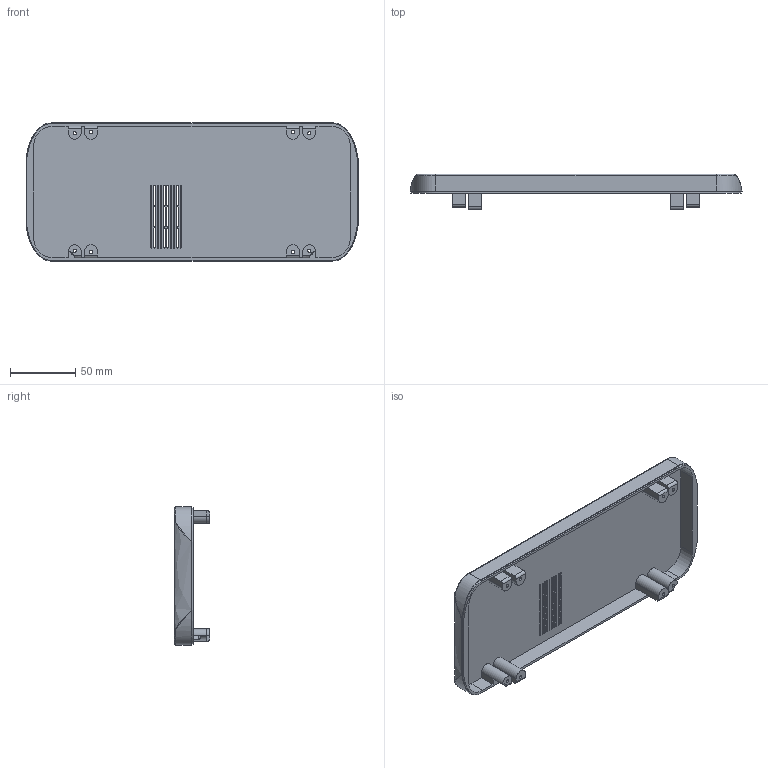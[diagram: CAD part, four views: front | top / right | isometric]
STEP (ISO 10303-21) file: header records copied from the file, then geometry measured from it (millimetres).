
FILE_DESCRIPTION(/* description */ ('STEP AP242','CAx-IF Rec.Pracs.---Representation and Presentation of Product Manufacturing Information (PMI)---4.0---2014-10-13','CAx-IF Rec.Pracs.---3D Tessellated Geometry---0.4---2014-09-14','2;1'),/* implementation_level */ '2;1');
FILE_NAME(/* name */ '6866124f8d54b807f87f535a',/* time_stamp */ '2025-07-03T05:17:04Z',/* author */ (''),/* organization */ (''),/* preprocessor_version */ 'ST-DEVELOPER v20',/* originating_system */ 'ONSHAPE BY PTC INC, 1.200',/* authorisation */ ' ');
FILE_SCHEMA (('AP242_MANAGED_MODEL_BASED_3D_ENGINEERING_MIM_LF { 1 0 10303 442 1 1 4 }'));
Length unit declared in the file: metre
Products named in the file (1): Part 1
Bounding box: 254.72 x 27 x 106 mm (x, y, z)
Volume: 85067.5 mm3; surface area: 79755.1 mm2
Topology: 1 solids, 1 shells, 252 faces, 708 edges, 464 vertices
Faces by surface type: plane 122, cylinder 104, bspline 18, torus 8
Full cylindrical faces by diameter (mm): 2.5 x8, 7 x8
Entity records: 8800 total; most frequent: CARTESIAN_POINT 2201, ORIENTED_EDGE 1348, DIRECTION 1330, EDGE_CURVE 674, AXIS2_PLACEMENT_3D 457, VERTEX_POINT 454, LINE 416, VECTOR 416
